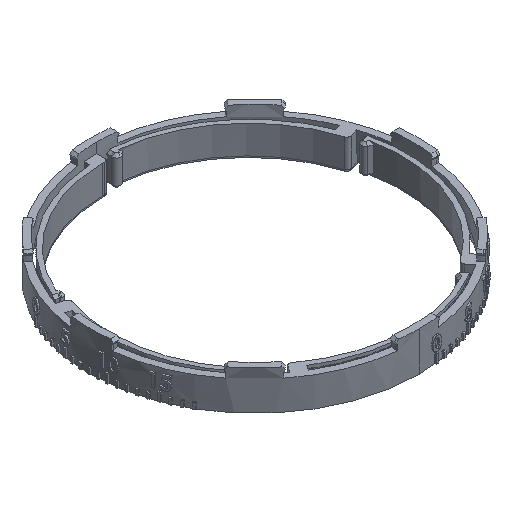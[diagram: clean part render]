
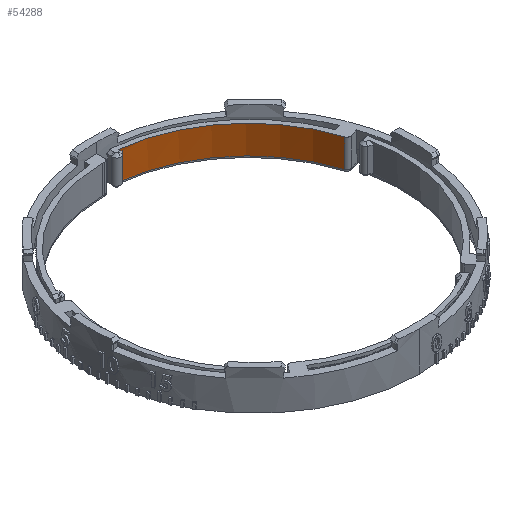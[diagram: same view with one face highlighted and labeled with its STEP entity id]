
A CAD part, isometric view. The second image highlights one B-rep face of the part: STEP entity #54288.
In plain terms, the highlighted cylindrical face has radius 44.5 mm (diameter 89 mm), a partial arc.
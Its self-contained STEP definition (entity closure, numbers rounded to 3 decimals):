
#1783 = CARTESIAN_POINT ( 'NONE',  ( -5.231, 0.9, -45.507 ) ) ;
#3713 = ORIENTED_EDGE ( 'NONE', *, *, #62813, .T. ) ;
#6371 = AXIS2_PLACEMENT_3D ( 'NONE', #102502, #103220, #9132 ) ;
#8044 = CIRCLE ( 'NONE', #106932, 44.5 ) ;
#9132 = DIRECTION ( 'NONE',  ( 0., 0., -1. ) ) ;
#9673 = CARTESIAN_POINT ( 'NONE',  ( 0.554, 0.1, -1.384 ) ) ;
#10229 = CARTESIAN_POINT ( 'NONE',  ( -41.932, 0.1, -14.621 ) ) ;
#12808 = CARTESIAN_POINT ( 'NONE',  ( -4.902, 0.631, -45.55 ) ) ;
#16142 = AXIS2_PLACEMENT_3D ( 'NONE', #89807, #106611, #71487 ) ;
#19123 =( BOUNDED_CURVE ( )  B_SPLINE_CURVE ( 3, ( #90089, #47593, #12808, #97202 ),
 .UNSPECIFIED., .F., .F. ) 
 B_SPLINE_CURVE_WITH_KNOTS ( ( 4, 4 ),
 ( 0.921, 0.943 ),
 .UNSPECIFIED. ) 
 CURVE ( )  GEOMETRIC_REPRESENTATION_ITEM ( )  RATIONAL_B_SPLINE_CURVE ( ( 1., 1., 1., 1. ) ) 
 REPRESENTATION_ITEM ( '' )  );
#19325 = VERTEX_POINT ( 'NONE', #69847 ) ;
#19447 = DIRECTION ( 'NONE',  ( -0.951, 0., -0.309 ) ) ;
#20983 = EDGE_CURVE ( 'NONE', #67552, #51601, #19123, .T. ) ;
#25281 = CYLINDRICAL_SURFACE ( 'NONE', #6371, 44.5 ) ;
#30038 = DIRECTION ( 'NONE',  ( 0., 1., 0. ) ) ;
#36754 = EDGE_CURVE ( 'NONE', #51601, #61473, #79287, .T. ) ;
#38605 = FACE_OUTER_BOUND ( 'NONE', #105754, .T. ) ;
#45404 = VERTEX_POINT ( 'NONE', #72761 ) ;
#46519 = CIRCLE ( 'NONE', #16142, 44.5 ) ;
#47593 = CARTESIAN_POINT ( 'NONE',  ( -4.572, 0.364, -45.589 ) ) ;
#48907 = VERTEX_POINT ( 'NONE', #10229 ) ;
#51601 = VERTEX_POINT ( 'NONE', #1783 ) ;
#53968 = VECTOR ( 'NONE', #30038, 1000. ) ;
#54288 = ADVANCED_FACE ( 'NONE', ( #38605 ), #25281, .F. ) ;
#55712 = CARTESIAN_POINT ( 'NONE',  ( -5.231, 8.3, -45.507 ) ) ;
#56731 = EDGE_CURVE ( 'NONE', #45404, #48907, #74031, .T. ) ;
#58023 = ORIENTED_EDGE ( 'NONE', *, *, #109309, .F. ) ;
#61371 = ORIENTED_EDGE ( 'NONE', *, *, #56731, .T. ) ;
#61473 = VERTEX_POINT ( 'NONE', #64790 ) ;
#62813 = EDGE_CURVE ( 'NONE', #48907, #67552, #8044, .T. ) ;
#64790 = CARTESIAN_POINT ( 'NONE',  ( -5.231, 8.3, -45.507 ) ) ;
#65814 = EDGE_CURVE ( 'NONE', #61473, #19325, #83425, .T. ) ;
#67439 = VECTOR ( 'NONE', #105626, 1000. ) ;
#67552 = VERTEX_POINT ( 'NONE', #79016 ) ;
#69847 = CARTESIAN_POINT ( 'NONE',  ( -4.739, 8.7, -45.568 ) ) ;
#70494 = CARTESIAN_POINT ( 'NONE',  ( -41.932, 61.954, -14.621 ) ) ;
#71487 = DIRECTION ( 'NONE',  ( 0., 0., 1. ) ) ;
#72761 = CARTESIAN_POINT ( 'NONE',  ( -41.932, 8.7, -14.621 ) ) ;
#73871 = CARTESIAN_POINT ( 'NONE',  ( -4.739, 8.7, -45.568 ) ) ;
#74031 = LINE ( 'NONE', #70494, #67439 ) ;
#79016 = CARTESIAN_POINT ( 'NONE',  ( -4.242, 0.1, -45.625 ) ) ;
#79287 = LINE ( 'NONE', #98646, #53968 ) ;
#80717 = ORIENTED_EDGE ( 'NONE', *, *, #20983, .T. ) ;
#81411 = CARTESIAN_POINT ( 'NONE',  ( -4.903, 8.567, -45.549 ) ) ;
#83425 =( BOUNDED_CURVE ( )  B_SPLINE_CURVE ( 3, ( #55712, #99324, #81411, #73871 ),
 .UNSPECIFIED., .F., .F. ) 
 B_SPLINE_CURVE_WITH_KNOTS ( ( 4, 4 ),
 ( 2.198, 2.209 ),
 .UNSPECIFIED. ) 
 CURVE ( )  GEOMETRIC_REPRESENTATION_ITEM ( )  RATIONAL_B_SPLINE_CURVE ( ( 1., 1., 1., 1. ) ) 
 REPRESENTATION_ITEM ( '' )  );
#86959 = DIRECTION ( 'NONE',  ( 0., -1., 0. ) ) ;
#86968 = ORIENTED_EDGE ( 'NONE', *, *, #65814, .T. ) ;
#89807 = CARTESIAN_POINT ( 'NONE',  ( 0.554, 8.7, -1.384 ) ) ;
#90089 = CARTESIAN_POINT ( 'NONE',  ( -4.242, 0.1, -45.625 ) ) ;
#97202 = CARTESIAN_POINT ( 'NONE',  ( -5.231, 0.9, -45.507 ) ) ;
#98646 = CARTESIAN_POINT ( 'NONE',  ( -5.231, 61.954, -45.507 ) ) ;
#99324 = CARTESIAN_POINT ( 'NONE',  ( -5.067, 8.434, -45.528 ) ) ;
#101338 = ORIENTED_EDGE ( 'NONE', *, *, #36754, .T. ) ;
#102502 = CARTESIAN_POINT ( 'NONE',  ( 0.554, 61.954, -1.384 ) ) ;
#103220 = DIRECTION ( 'NONE',  ( 0., -1., 0. ) ) ;
#105626 = DIRECTION ( 'NONE',  ( 0., -1., 0. ) ) ;
#105754 = EDGE_LOOP ( 'NONE', ( #58023, #61371, #3713, #80717, #101338, #86968 ) ) ;
#106611 = DIRECTION ( 'NONE',  ( 0., -1., 0. ) ) ;
#106932 = AXIS2_PLACEMENT_3D ( 'NONE', #9673, #86959, #19447 ) ;
#109309 = EDGE_CURVE ( 'NONE', #45404, #19325, #46519, .T. ) ;
